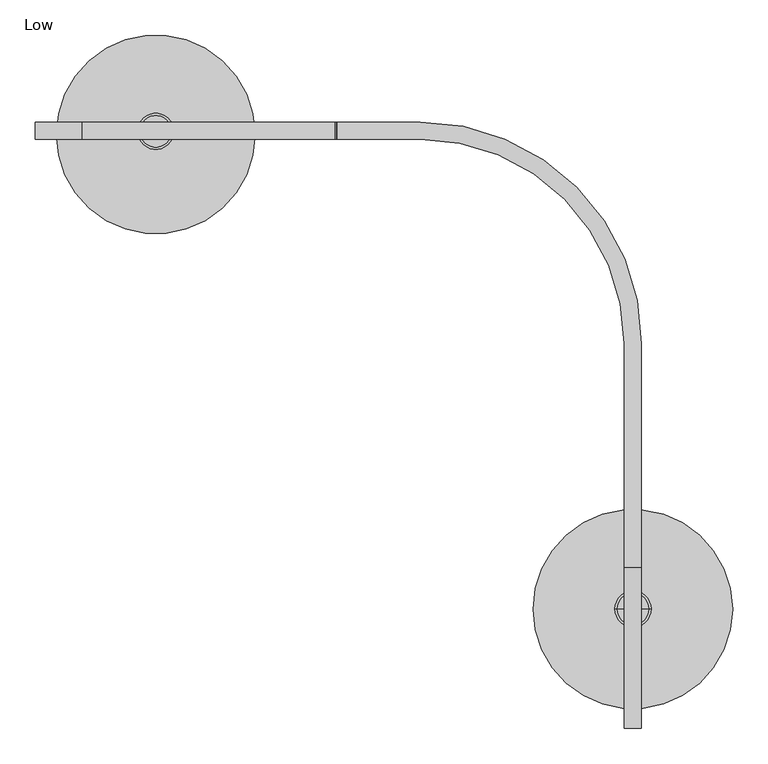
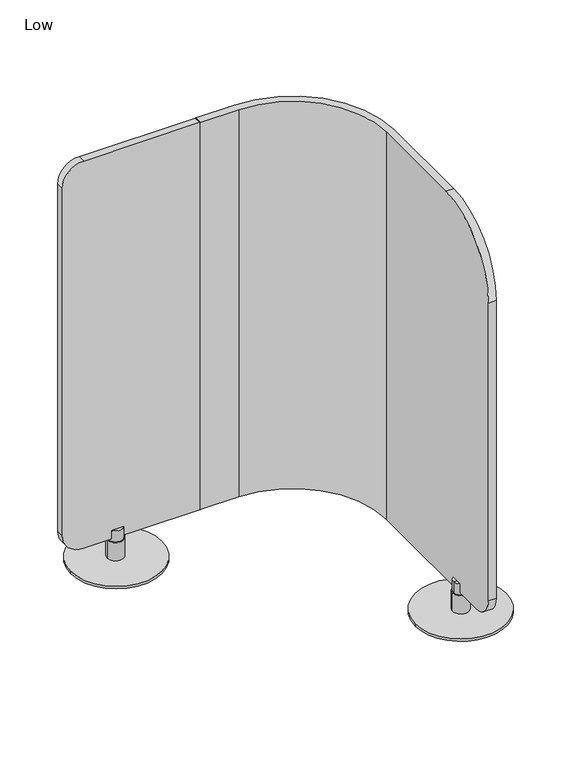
"""IFC4 building model written with IfcOpenShell, lengths in millimetres: furniture geometry, Coalesse_AM_SpaceDivision_Screen_Ensemble_Corner : Low."""

from ifc_helpers import new_model, si_unit, point, frame, frame_2d, origin, origin_with_axes, place, context, project, spatial, polyline, circle_curve, trimmed, segment, composite_curve, outline, extrude, source, transform, mapped, element, save
from ifc_brep_helpers import plane_surface, cylinder_surface, revolved_surface, advanced_brep


def low_a136bd70(model_context):
    return source(origin(), model_context, "Body", "SolidModel", [
        advanced_brep(
        [(853.9730377, -628.1115594, 1332.4926487), (853.9730377, -853.9734079, 1106.6308002), (853.9730377, -853.9734079, 139.3436268), (853.9730377, -789.1395851, 74.509804), (853.9730377, -311.8991998, 74.5093328), (853.9730377, -311.8991998, 1332.4926487), (829.995618, -789.1395851, 74.509804), (829.995618, -853.9734079, 139.3436268), (829.995618, -853.9734079, 1106.6308002), (829.995618, -628.1115594, 1332.4926487), (829.995618, -311.9750865, 1332.4926487), (829.995618, -311.9750865, 74.5093328), (542.087374, -23.9774863, 74.509804), (425.2080637, -23.9774863, 74.509804), (425.2080637, 0.0, 74.509804), (542.0984688, 0.0, 74.509804), (542.0984688, 0.0, 1332.4926487), (425.2272842, 0.0, 1332.4926487), (425.2272842, -23.9774863, 1332.4926487), (542.087374, -23.9774863, 1332.4926487), (423.9933105, -23.9774863, 1331.258675), (423.9933105, -23.9774863, 75.7241996), (423.9933105, 0.0, 75.7241996), (423.9933105, 0.0, 1331.258675)],
        [
            (0, 1, circle_curve(frame((853.9730377, -628.1115594, 1106.6308002), z_axis=(1.0, 0.0, 0.0), x_axis=(0.0, 1.0, 0.0)), 225.8618485)),
            (1, 2),
            (2, 3, circle_curve(frame((853.9730377, -789.1395851, 139.3436268), z_axis=(1.0, 0.0, 0.0), x_axis=(0.0, 1.0, 0.0)), 64.8338228)),
            (3, 4),
            (4, 5),
            (5, 0),
            (6, 7, circle_curve(frame((829.995618, -789.1395851, 139.3436268), z_axis=(-1.0, 0.0, 0.0), x_axis=(0.0, 1.0, 0.0)), 64.8338228)),
            (7, 8),
            (8, 9, circle_curve(frame((829.995618, -628.1115594, 1106.6308002), z_axis=(-1.0, 0.0, 0.0), x_axis=(0.0, 1.0, 0.0)), 225.8618485)),
            (9, 10),
            (10, 11),
            (11, 6),
            (0, 9),
            (8, 1),
            (7, 2),
            (6, 3),
            (11, 12, circle_curve(frame((542.087374, -311.8857441, 74.509804), z_axis=(0.0, 0.0, 1.0), x_axis=(1.0, 0.0, 0.0)), 287.9082578)),
            (12, 13),
            (13, 14),
            (14, 15),
            (15, 4, circle_curve(frame((542.0984688, -311.8991998, 74.509804), z_axis=(0.0, 0.0, -1.0), x_axis=(1.0, 0.0, 0.0)), 311.8991998)),
            (5, 16, circle_curve(frame((542.0984688, -311.8991998, 1332.4926487), z_axis=(0.0, 0.0, 1.0), x_axis=(1.0, 0.0, 0.0)), 311.8991998)),
            (16, 17),
            (17, 18),
            (18, 19),
            (19, 10, circle_curve(frame((542.087374, -311.8857441, 1332.4926487), z_axis=(0.0, 0.0, -1.0), x_axis=(1.0, 0.0, 0.0)), 287.9082578)),
            (18, 20, circle_curve(frame((425.2272842, -23.9774863, 1331.258675), z_axis=(0.0, -1.0, 0.0), x_axis=(1.0, 0.0, 0.0)), 1.2339737)),
            (20, 21),
            (21, 13, circle_curve(frame((425.2080637, -23.9774863, 75.7241996), z_axis=(0.0, -1.0, 0.0), x_axis=(1.0, 0.0, 0.0)), 1.2147532)),
            (12, 19),
            (15, 16),
            (14, 22, circle_curve(frame((425.2080637, 0.0, 75.7241996), z_axis=(0.0, 1.0, 0.0), x_axis=(1.0, 0.0, 0.0)), 1.2147532)),
            (22, 23),
            (23, 17, circle_curve(frame((425.2272842, 0.0, 1331.258675), z_axis=(0.0, 1.0, 0.0), x_axis=(1.0, 0.0, 0.0)), 1.2339737)),
            (23, 20),
            (22, 21),
        ],
        [
            plane_surface(frame((853.9730377, -402.2497109, 1106.6308002), z_axis=(1.0, 0.0, 0.0), x_axis=(0.0, 0.0, 1.0))),
            plane_surface(frame((829.995618, -402.2497109, 1106.6308002), z_axis=(-1.0, 0.0, 0.0), x_axis=(0.0, 0.0, -1.0))),
            cylinder_surface(frame((829.995618, -628.1115594, 1106.6308002), z_axis=(1.0, 0.0, 0.0), x_axis=(0.0, 1.0, 0.0)), 225.8618485),
            plane_surface(frame((853.9730377, -853.9734079, 1106.6308002), z_axis=(0.0, -1.0, 0.0), x_axis=(-1.0, 0.0, 0.0))),
            cylinder_surface(frame((829.995618, -789.1395851, 139.3436268), z_axis=(1.0, 0.0, 0.0), x_axis=(0.0, 1.0, 0.0)), 64.8338228),
            plane_surface(frame((853.9730377, -789.1395851, 74.509804), z_axis=(0.0, 0.0, -1.0), x_axis=(-1.0, 0.0, 0.0))),
            plane_surface(frame((853.9730377, -315.8189106, 1332.4926487), z_axis=(0.0, 0.0, 1.0), x_axis=(-1.0, 0.0, 0.0))),
            plane_surface(frame((537.7681369, -23.9774863, 1332.4926487), z_axis=(0.0, -1.0, 0.0), x_axis=(0.0, 0.0, -1.0))),
            revolved_surface(polyline([(829.9956318, -311.8857441, 74.5093328), (829.9956318, -311.8857441, 1332.4926487)]), (542.087374, -311.8857441, 74.5093328), (0.0, 0.0, -1.0)),
            cylinder_surface(frame((542.0984688, -311.8991998, 74.5093328), z_axis=(0.0, 0.0, 1.0), x_axis=(1.0, 0.0, 0.0)), 311.8991998),
            plane_surface(frame((542.0984688, 0.0, 1332.4926487), z_axis=(0.0, 1.0, 0.0), x_axis=(0.0, 0.0, -1.0))),
            cylinder_surface(frame((425.2272842, 0.0, 1331.258675), z_axis=(0.0, -1.0, 0.0), x_axis=(1.0, 0.0, 0.0)), 1.2339737),
            plane_surface(frame((423.9933105, -23.9774863, 1331.258675), z_axis=(-1.0, 0.0, 0.0), x_axis=(0.0, 1.0, 0.0))),
            cylinder_surface(frame((425.2080637, 0.0, 75.7241996), z_axis=(0.0, -1.0, 0.0), x_axis=(1.0, 0.0, 0.0)), 1.2147532),
        ],
        [
            (0, [[1, 2, 3, 4, 5, 6]]),
            (1, [[7, 8, 9, 10, 11, 12]]),
            (2, [[-1, 13, -9, 14]]),
            (3, [[-2, -14, -8, 15]]),
            (4, [[-3, -15, -7, 16]]),
            (5, [[-16, -12, 17, 18, 19, 20, 21, -4]]),
            (6, [[-13, -6, 22, 23, 24, 25, 26, -10]]),
            (7, [[-25, 27, 28, 29, -18, 30]]),
            (8, [[-26, -30, -17, -11]]),
            (9, [[-22, -5, -21, 31]]),
            (10, [[-23, -31, -20, 32, 33, 34]]),
            (11, [[-27, -24, -34, 35]]),
            (12, [[-28, -35, -33, 36]]),
            (13, [[-29, -36, -32, -19]]),
        ],
    ),
        extrude(outline(composite_curve([segment(trimmed(circle_curve(frame_2d((1267.5289851, 64.9636636)), 64.9636636), [point((1332.4926487, 64.9636636))], [point((1267.5289851, 0.0))], False, "CARTESIAN"), True, "CONTINUOUS"), segment(polyline([(1267.5289851, 0.0), (138.0093328, 0.0)]), True, "CONTINUOUS"), segment(trimmed(circle_curve(frame_2d((138.0093328, 63.5)), 63.5), [point((138.0093328, 0.0))], [point((74.5093328, 63.5))], False, "CARTESIAN"), True, "CONTINUOUS"), segment(polyline([(74.5093328, 63.5), (74.5093328, 422.7146225)]), True, "CONTINUOUS"), segment(trimmed(circle_curve(frame_2d((75.7880209, 422.7146225)), 1.278688), [point((74.5093328, 422.7146225))], [point((75.7880209, 423.9933105))], False, "CARTESIAN"), True, "CONTINUOUS"), segment(polyline([(75.7880209, 423.9933105), (1331.3107464, 423.9933105)]), True, "CONTINUOUS"), segment(trimmed(circle_curve(frame_2d((1331.3107464, 422.8114082)), 1.1819023), [point((1331.3107464, 423.9933105))], [point((1332.4926487, 422.8114082))], False, "CARTESIAN"), True, "CONTINUOUS"), segment(polyline([(1332.4926487, 422.8114082), (1332.4926487, 64.9636636)]), True, "CONTINUOUS")], self_intersect=False)), frame((0.0, -23.9774863, 0.0), z_axis=(0.0, 1.0, 0.0), x_axis=(0.0, 0.0, 1.0)), (0.0, 0.0, 1.0), 23.9774863),
        advanced_brep(
        [(816.700333, -685.8161337, 7.8732992), (867.500333, -685.8161337, 7.8732992), (842.100333, -685.8161337, 7.8732992), (816.700333, -685.8161337, 67.1258584), (867.500333, -685.8161337, 67.1258584), (819.9544051, -685.8161337, 67.1258584), (864.2462609, -685.8161337, 67.1258584), (819.9544051, -685.8161337, 102.873817), (864.2462609, -685.8161337, 102.873817), (842.100333, -685.8161337, 102.873817)],
        [
            (0, 1, circle_curve(frame((842.100333, -685.8161337, 7.8732992), z_axis=(0.0, 0.0, -1.0), x_axis=(1.0, 0.0, 0.0)), 25.4)),
            (1, 2),
            (2, 0),
            (1, 0, circle_curve(frame((842.100333, -685.8161337, 7.8732992), z_axis=(0.0, 0.0, -1.0), x_axis=(1.0, 0.0, 0.0)), 25.4)),
            (3, 4, circle_curve(frame((842.100333, -685.8161337, 67.1258584), z_axis=(0.0, 0.0, -1.0), x_axis=(1.0, 0.0, 0.0)), 25.4)),
            (4, 1),
            (0, 3),
            (4, 3, circle_curve(frame((842.100333, -685.8161337, 67.1258584), z_axis=(0.0, 0.0, -1.0), x_axis=(1.0, 0.0, 0.0)), 25.4)),
            (5, 6, circle_curve(frame((842.100333, -685.8161337, 67.1258584), z_axis=(0.0, 0.0, -1.0), x_axis=(1.0, 0.0, 0.0)), 22.1459279)),
            (6, 4),
            (3, 5),
            (6, 5, circle_curve(frame((842.100333, -685.8161337, 67.1258584), z_axis=(0.0, 0.0, -1.0), x_axis=(1.0, 0.0, 0.0)), 22.1459279)),
            (7, 8, circle_curve(frame((842.100333, -685.8161337, 102.873817), z_axis=(0.0, 0.0, -1.0), x_axis=(1.0, 0.0, 0.0)), 22.1459279)),
            (8, 6),
            (5, 7),
            (8, 7, circle_curve(frame((842.100333, -685.8161337, 102.873817), z_axis=(0.0, 0.0, -1.0), x_axis=(1.0, 0.0, 0.0)), 22.1459279)),
            (9, 8),
            (7, 9),
        ],
        [
            plane_surface(frame((842.100333, -685.8161337, 7.8732992), z_axis=(0.0, 0.0, -1.0), x_axis=(1.0, 0.0, 0.0))),
            cylinder_surface(frame((842.100333, -685.8161337, 102.873817), z_axis=(0.0, 0.0, 1.0), x_axis=(1.0, 0.0, 0.0)), 25.4),
            plane_surface(frame((842.100333, -685.8161337, 67.1258584), z_axis=(0.0, 0.0, 1.0), x_axis=(1.0, 0.0, 0.0))),
            cylinder_surface(frame((842.100333, -685.8161337, 102.873817), z_axis=(0.0, 0.0, 1.0), x_axis=(1.0, 0.0, 0.0)), 22.1459279),
            plane_surface(frame((842.100333, -685.8161337, 102.873817), z_axis=(0.0, 0.0, 1.0), x_axis=(1.0, 0.0, 0.0))),
        ],
        [
            (0, [[1, 2, 3]]),
            (0, [[4, -3, -2]]),
            (1, [[5, 6, -1, 7]]),
            (1, [[8, -7, -4, -6]]),
            (2, [[9, 10, -5, 11]]),
            (2, [[12, -11, -8, -10]]),
            (3, [[13, 14, -9, 15]]),
            (3, [[16, -15, -12, -14]]),
            (4, [[17, -13, 18]]),
            (4, [[-18, -16, -17]]),
        ],
    ),
        advanced_brep(
        [(144.1303497, -12.7, 7.8732992), (194.9303497, -12.7, 7.8732992), (169.5303497, -12.7, 7.8732992), (144.1303497, -12.7, 67.1258584), (194.9303497, -12.7, 67.1258584), (147.3844218, -12.7, 67.1258584), (191.6762776, -12.7, 67.1258584), (147.3844218, -12.7, 102.873817), (191.6762776, -12.7, 102.873817), (169.5303497, -12.7, 102.873817)],
        [
            (0, 1, circle_curve(frame((169.5303497, -12.7, 7.8732992), z_axis=(0.0, 0.0, -1.0), x_axis=(1.0, 0.0, 0.0)), 25.4)),
            (1, 2),
            (2, 0),
            (1, 0, circle_curve(frame((169.5303497, -12.7, 7.8732992), z_axis=(0.0, 0.0, -1.0), x_axis=(1.0, 0.0, 0.0)), 25.4)),
            (3, 4, circle_curve(frame((169.5303497, -12.7, 67.1258584), z_axis=(0.0, 0.0, -1.0), x_axis=(1.0, 0.0, 0.0)), 25.4)),
            (4, 1),
            (0, 3),
            (4, 3, circle_curve(frame((169.5303497, -12.7, 67.1258584), z_axis=(0.0, 0.0, -1.0), x_axis=(1.0, 0.0, 0.0)), 25.4)),
            (5, 6, circle_curve(frame((169.5303497, -12.7, 67.1258584), z_axis=(0.0, 0.0, -1.0), x_axis=(1.0, 0.0, 0.0)), 22.1459279)),
            (6, 4),
            (3, 5),
            (6, 5, circle_curve(frame((169.5303497, -12.7, 67.1258584), z_axis=(0.0, 0.0, -1.0), x_axis=(1.0, 0.0, 0.0)), 22.1459279)),
            (7, 8, circle_curve(frame((169.5303497, -12.7, 102.873817), z_axis=(0.0, 0.0, -1.0), x_axis=(1.0, 0.0, 0.0)), 22.1459279)),
            (8, 6),
            (5, 7),
            (8, 7, circle_curve(frame((169.5303497, -12.7, 102.873817), z_axis=(0.0, 0.0, -1.0), x_axis=(1.0, 0.0, 0.0)), 22.1459279)),
            (9, 8),
            (7, 9),
        ],
        [
            plane_surface(frame((169.5303497, -12.7, 7.8732992), z_axis=(0.0, 0.0, -1.0), x_axis=(1.0, 0.0, 0.0))),
            cylinder_surface(frame((169.5303497, -12.7, 102.873817), z_axis=(0.0, 0.0, 1.0), x_axis=(1.0, 0.0, 0.0)), 25.4),
            plane_surface(frame((169.5303497, -12.7, 67.1258584), z_axis=(0.0, 0.0, 1.0), x_axis=(1.0, 0.0, 0.0))),
            cylinder_surface(frame((169.5303497, -12.7, 102.873817), z_axis=(0.0, 0.0, 1.0), x_axis=(1.0, 0.0, 0.0)), 22.1459279),
            plane_surface(frame((169.5303497, -12.7, 102.873817), z_axis=(0.0, 0.0, 1.0), x_axis=(1.0, 0.0, 0.0))),
        ],
        [
            (0, [[1, 2, 3]]),
            (0, [[4, -3, -2]]),
            (1, [[5, 6, -1, 7]]),
            (1, [[8, -7, -4, -6]]),
            (2, [[9, 10, -5, 11]]),
            (2, [[12, -11, -8, -10]]),
            (3, [[13, 14, -9, 15]]),
            (3, [[16, -15, -12, -14]]),
            (4, [[17, -13, 18]]),
            (4, [[-18, -16, -17]]),
        ],
    ),
        extrude(outline(composite_curve([segment(trimmed(circle_curve(frame_2d((169.5303497, -17.0411177)), 140.0479005), [point((29.4824492, -17.0411177))], [point((309.5782503, -17.0411177))], False, "CARTESIAN"), True, "CONTINUOUS"), segment(trimmed(circle_curve(frame_2d((169.5303497, -17.0411177)), 140.0479005), [point((309.5782503, -17.0411177))], [point((29.4824492, -17.0411177))], False, "CARTESIAN"), True, "CONTINUOUS")], self_intersect=False)), origin_with_axes(), (0.0, 0.0, 1.0), 7.8732992),
        extrude(outline(composite_curve([segment(trimmed(circle_curve(frame_2d((841.9822183, -686.081839)), 140.3919114), [point((701.5903068, -686.081839))], [point((982.3741297, -686.081839))], False, "CARTESIAN"), True, "CONTINUOUS"), segment(trimmed(circle_curve(frame_2d((841.9822183, -686.081839)), 140.3919114), [point((982.3741297, -686.081839))], [point((701.5903068, -686.081839))], False, "CARTESIAN"), True, "CONTINUOUS")], self_intersect=False)), origin_with_axes(), (0.0, 0.0, 1.0), 7.8732992),
    ])


if __name__ == "__main__":
    model = new_model("IFC4")
    model_context = context("Model", 3, world=origin())
    ifc_project = project(units=[si_unit("LENGTHUNIT", "METRE", prefix="MILLI")], contexts=[model_context])
    site = spatial("IfcSite", under=ifc_project)
    building = spatial("IfcBuilding", under=site)
    placement = place(None, origin())
    low_shape = low_a136bd70(model_context)
    element("IfcFurniture", 1, ObjectType="Coalesse_AM_SpaceDivision_Screen_Ensemble_Corner : Low", at=placement, inside=building, context=model_context, shape_type="MappedRepresentation", body=[
        mapped(low_shape, transform((0.0, 0.0, 0.0), x_axis=(1.0, 0.0, 0.0), y_axis=(0.0, 1.0, 0.0), z_axis=(0.0, 0.0, 1.0))),
    ])
    save(model, "model.ifc")
